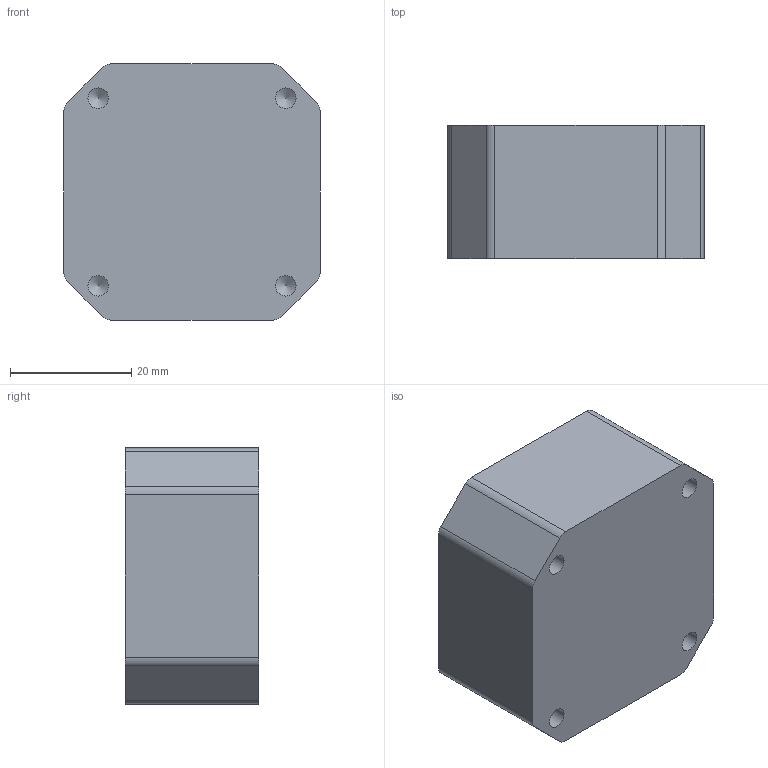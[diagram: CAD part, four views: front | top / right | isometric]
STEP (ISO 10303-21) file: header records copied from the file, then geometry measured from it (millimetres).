
FILE_DESCRIPTION(/* description */ ('STEP AP242 Edition 2','CAx-IF Rec.Pracs.---Representation and Presentation of Product Manufacturing Information (PMI)---4.0---2014-10-13','CAx-IF Rec.Pracs.---3D Tessellated Geometry---0.4---2014-09-14','2;1','CAx-IF Rec.Pracs.---User Defined Attributes---1.5---2016-08-15'),/* implementation_level */ '2;1');
FILE_NAME(/* name */ 'Assembly 1 - Body2 (4)',/* time_stamp */ '2026-09-25T20:07:13Z',/* author */ (''),/* organization */ (''),/* preprocessor_version */ 'ST-DEVELOPER v20',/* originating_system */ 'ONSHAPE BY PTC INC, 1.221',/* authorisation */ ' ');
FILE_SCHEMA (('AP242_MANAGED_MODEL_BASED_3D_ENGINEERING_MIM_LF { 1 0 10303 442 3 1 4 }'));
Length unit declared in the file: metre
Products named in the file (1): Body2
Bounding box: 42.3 x 22 x 42.3 mm (x, y, z)
Volume: 36543.4 mm3; surface area: 7547.8 mm2
Topology: 1 solids, 1 shells, 34 faces, 88 edges, 56 vertices
Faces by surface type: cylinder 16, plane 10, cone 8
Full cylindrical faces by diameter (mm): 2.5 x4, 3.4 x4
Entity records: 942 total; most frequent: DIRECTION 166, CARTESIAN_POINT 155, ORIENTED_EDGE 128, AXIS2_PLACEMENT_3D 67, EDGE_CURVE 64, FACE_BOUND 58, VERTEX_POINT 56, EDGE_LOOP 50
